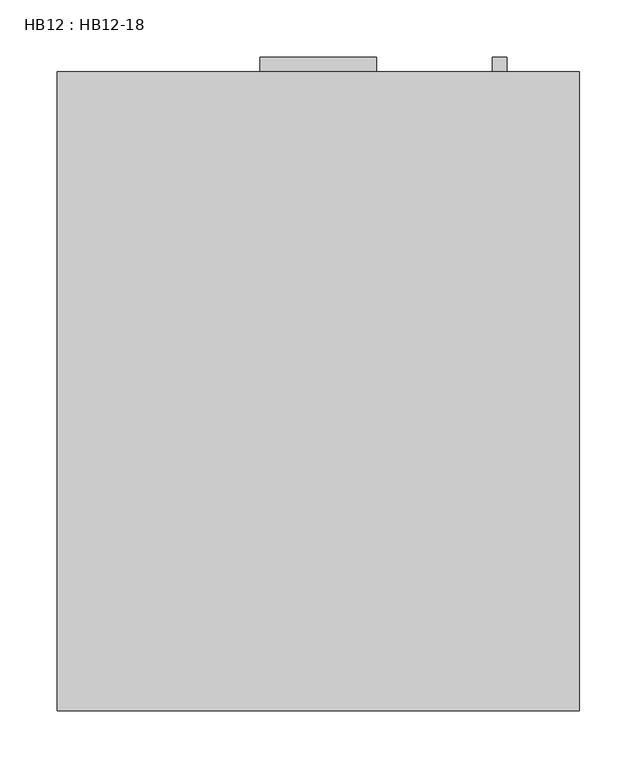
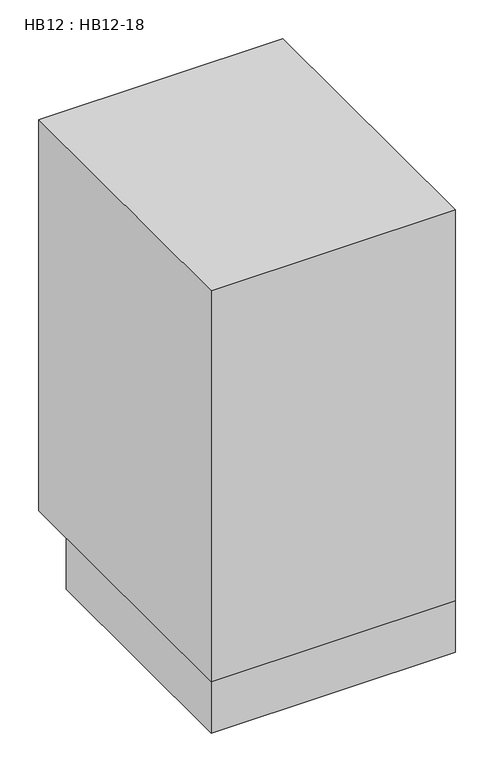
"""IFC4 building model written with IfcOpenShell, lengths in millimetres: furniture geometry, HB12 : HB12-18."""

from ifc_helpers import new_model, si_unit, frame, origin, origin_with_axes, place, context, project, spatial, polyline, outline, extrude, source, transform, mapped, element, save


def hb12_hb12_18_c50c6706(model_context):
    return source(origin(), model_context, "Body", "SweptSolid", [
        extrude(outline(polyline([(247.3377049, 0.0), (-209.8622951, 0.0), (-209.8622951, 558.8), (247.3377049, 558.8), (247.3377049, 0.0)])), frame((0.0, 0.0, 101.6), z_axis=(0.0, 0.0, 1.0), x_axis=(1.0, 0.0, 0.0)), (0.0, 0.0, 1.0), 774.7),
        extrude(outline(polyline([(69.5377049, 571.5), (69.5377049, 558.8), (-32.0622951, 558.8), (-32.0622951, 571.5), (69.5377049, 571.5)])), frame((0.0, 0.0, 793.85), z_axis=(0.0, 0.0, 1.0), x_axis=(1.0, 0.0, 0.0)), (0.0, 0.0, 1.0), 12.6),
        extrude(outline(polyline([(183.7877049, 571.5), (183.7877049, 558.8), (171.1877049, 558.8), (171.1877049, 571.5), (183.7877049, 571.5)])), frame((0.0, 0.0, 571.5), z_axis=(0.0, 0.0, 1.0), x_axis=(1.0, 0.0, 0.0)), (0.0, 0.0, 1.0), 76.2),
        extrude(outline(polyline([(247.3377049, 0.0), (-209.8622951, 0.0), (-209.8622951, 469.9), (247.3377049, 469.9), (247.3377049, 0.0)])), origin_with_axes(), (0.0, 0.0, 1.0), 101.6),
    ])


if __name__ == "__main__":
    model = new_model("IFC4")
    model_context = context("Model", 3, world=origin())
    ifc_project = project(units=[si_unit("LENGTHUNIT", "METRE", prefix="MILLI")], contexts=[model_context])
    site = spatial("IfcSite", under=ifc_project)
    building = spatial("IfcBuilding", under=site)
    placement = place(None, origin())
    hb12_hb12_18_shape = hb12_hb12_18_c50c6706(model_context)
    element("IfcFurniture", 1, ObjectType="HB12 : HB12-18", at=placement, inside=building, context=model_context, shape_type="MappedRepresentation", body=[
        mapped(hb12_hb12_18_shape, transform((0.0, 0.0, 0.0), x_axis=(1.0, 0.0, 0.0), y_axis=(0.0, 1.0, 0.0), z_axis=(0.0, 0.0, 1.0))),
    ])
    save(model, "model.ifc")
